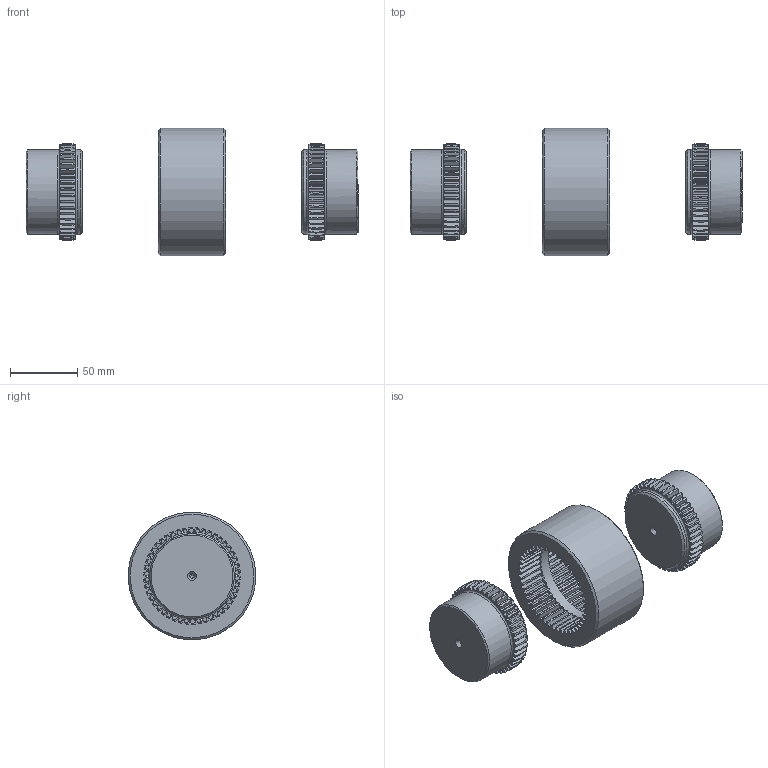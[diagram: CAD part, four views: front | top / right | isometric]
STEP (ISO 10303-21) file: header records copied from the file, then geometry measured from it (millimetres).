
FILE_DESCRIPTION((''),'2;1');
FILE_NAME('M:\Disegni 3D\GIFLEX\GIFLEX GF\GIFLEX GF-42\Assieme - Mozzo corto corto.stp','2015-12-16T11:52:45',('fabietto'),(''),'Autodesk Inventor 2013','Autodesk Inventor 2013','');
FILE_SCHEMA(('AUTOMOTIVE_DESIGN { 1 0 10303 214 1 1 1 1 }'));
Length unit declared in the file: millimetre
Products named in the file (3): Assieme - Mozzo corto corto; Manicotto; Mozzo corto
Assembly tree (3 placements, depth 2):
  Assieme - Mozzo corto corto
    Manicotto
    Mozzo corto  x2
Bounding box: 246.96 x 94.86 x 94.86 mm (x, y, z)
Volume: 444337.9 mm3; surface area: 76655.1 mm2
Topology: 3 solids, 3 shells, 1230 faces, 3192 edges, 1968 vertices
Faces by surface type: cylinder 608, plane 328, cone 198, bspline 92, torus 4
Full cylindrical faces by diameter (mm): 3.15 x4, 63 x4, 66.5 x1, 95 x1
Entity records: 27945 total; most frequent: CARTESIAN_POINT 6378, DIRECTION 5052, ORIENTED_EDGE 4448, AXIS2_PLACEMENT_3D 2296, EDGE_CURVE 2224, CIRCLE 1488, VERTEX_POINT 1396, EDGE_LOOP 866
